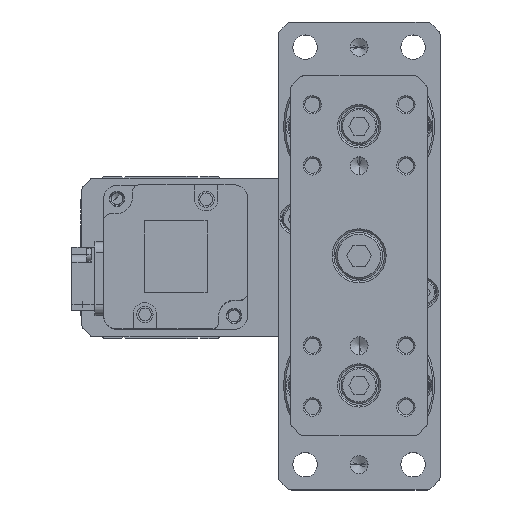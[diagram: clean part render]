
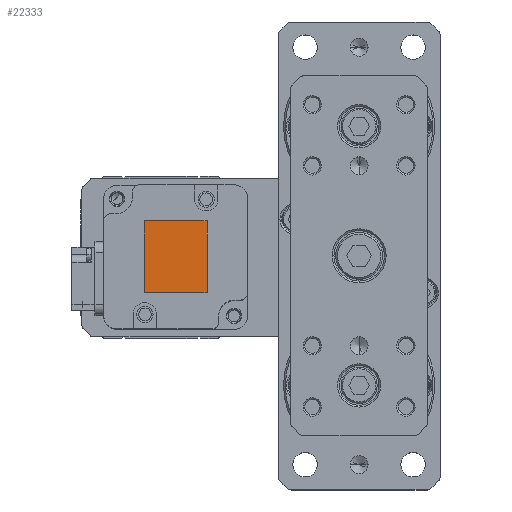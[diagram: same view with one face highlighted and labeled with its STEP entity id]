
A CAD part, top view. The second image highlights one B-rep face of the part: STEP entity #22333.
In plain terms, the highlighted planar face has unit normal (0, 0, 1) as drawn and (0, 0, -1) by its records, which use the part's own axes.
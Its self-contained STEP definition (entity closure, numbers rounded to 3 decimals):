
#843 = CARTESIAN_POINT ( 'NONE',  ( -10., 8.75, -82.6 ) ) ;
#2107 = EDGE_CURVE ( 'NONE', #36973, #29179, #27206, .T. ) ;
#2372 = CARTESIAN_POINT ( 'NONE',  ( 10., -8.75, -82.6 ) ) ;
#3161 = CARTESIAN_POINT ( 'NONE',  ( 0., 0., -82.6 ) ) ;
#4028 = ORIENTED_EDGE ( 'NONE', *, *, #32465, .T. ) ;
#4160 = DIRECTION ( 'NONE',  ( 0., 1., 0. ) ) ;
#5676 = EDGE_LOOP ( 'NONE', ( #12277, #11482, #38546, #4028 ) ) ;
#5771 = DIRECTION ( 'NONE',  ( 1., 0., 0. ) ) ;
#7603 = VECTOR ( 'NONE', #39579, 1000. ) ;
#8488 = VECTOR ( 'NONE', #5771, 1000. ) ;
#8681 = EDGE_CURVE ( 'NONE', #29179, #20569, #17731, .T. ) ;
#9878 = PLANE ( 'NONE',  #43057 ) ;
#11482 = ORIENTED_EDGE ( 'NONE', *, *, #2107, .T. ) ;
#12277 = ORIENTED_EDGE ( 'NONE', *, *, #19462, .T. ) ;
#15770 = LINE ( 'NONE', #843, #41223 ) ;
#16552 = DIRECTION ( 'NONE',  ( 0., 0., 1. ) ) ;
#17731 = LINE ( 'NONE', #2372, #26585 ) ;
#19462 = EDGE_CURVE ( 'NONE', #22928, #36973, #15770, .T. ) ;
#20569 = VERTEX_POINT ( 'NONE', #40987 ) ;
#22297 = DIRECTION ( 'NONE',  ( 0., -1., 0. ) ) ;
#22333 = ADVANCED_FACE ( 'NONE', ( #33701 ), #9878, .F. ) ;
#22928 = VERTEX_POINT ( 'NONE', #26397 ) ;
#25305 = LINE ( 'NONE', #29574, #7603 ) ;
#26397 = CARTESIAN_POINT ( 'NONE',  ( -10., -8.75, -82.6 ) ) ;
#26585 = VECTOR ( 'NONE', #22297, 1000. ) ;
#27206 = LINE ( 'NONE', #42251, #8488 ) ;
#29179 = VERTEX_POINT ( 'NONE', #34595 ) ;
#29574 = CARTESIAN_POINT ( 'NONE',  ( -10., -8.75, -82.6 ) ) ;
#32465 = EDGE_CURVE ( 'NONE', #20569, #22928, #25305, .T. ) ;
#33701 = FACE_OUTER_BOUND ( 'NONE', #5676, .T. ) ;
#34595 = CARTESIAN_POINT ( 'NONE',  ( 10., 8.75, -82.6 ) ) ;
#36973 = VERTEX_POINT ( 'NONE', #42088 ) ;
#38546 = ORIENTED_EDGE ( 'NONE', *, *, #8681, .T. ) ;
#39579 = DIRECTION ( 'NONE',  ( -1., 0., 0. ) ) ;
#39792 = DIRECTION ( 'NONE',  ( 1., 0., 0. ) ) ;
#40987 = CARTESIAN_POINT ( 'NONE',  ( 10., -8.75, -82.6 ) ) ;
#41223 = VECTOR ( 'NONE', #4160, 1000. ) ;
#42088 = CARTESIAN_POINT ( 'NONE',  ( -10., 8.75, -82.6 ) ) ;
#42251 = CARTESIAN_POINT ( 'NONE',  ( 10., 8.75, -82.6 ) ) ;
#43057 = AXIS2_PLACEMENT_3D ( 'NONE', #3161, #16552, #39792 ) ;
